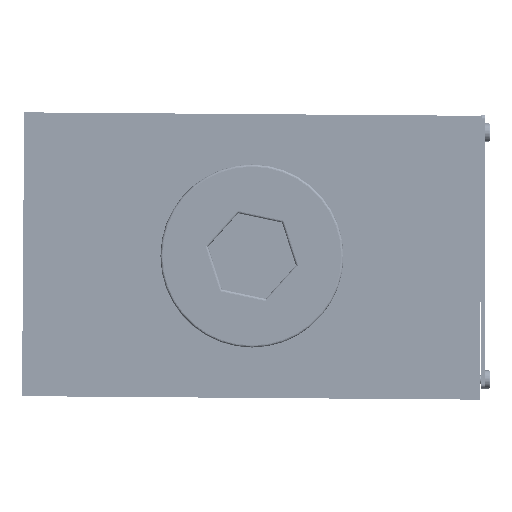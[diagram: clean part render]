
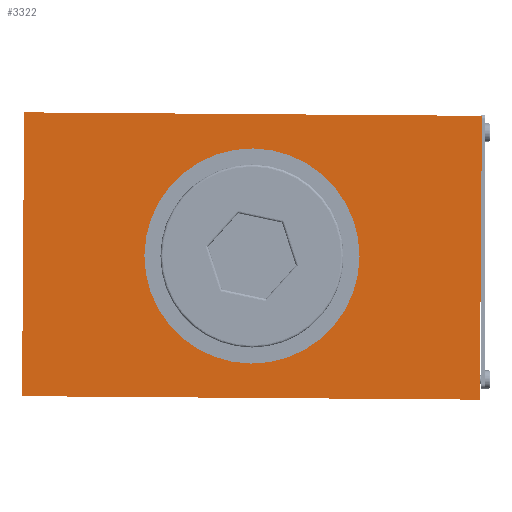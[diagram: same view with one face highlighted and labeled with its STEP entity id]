
A CAD part, front view. The second image highlights one B-rep face of the part: STEP entity #3322.
In plain terms, the highlighted planar face has unit normal (0, -1, 0).
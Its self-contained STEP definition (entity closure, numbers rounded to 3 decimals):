
#1701=LINE('',#31433,#2083);
#1705=LINE('',#39973,#2087);
#1706=LINE('',#39975,#2088);
#1707=LINE('',#39977,#2089);
#2083=VECTOR('',#15531,1.);
#2087=VECTOR('',#15645,1.);
#2088=VECTOR('',#15646,1.);
#2089=VECTOR('',#15647,1.);
#3322=ADVANCED_FACE('',(#4228,#4229),#3822,.T.);
#3822=PLANE('',#13056);
#4228=FACE_BOUND('',#5237,.T.);
#4229=FACE_BOUND('',#5238,.T.);
#5237=EDGE_LOOP('',(#8032));
#5238=EDGE_LOOP('',(#8033,#8034,#8035,#8036));
#8032=ORIENTED_EDGE('',*,*,#11226,.F.);
#8033=ORIENTED_EDGE('',*,*,#11227,.F.);
#8034=ORIENTED_EDGE('',*,*,#11072,.F.);
#8035=ORIENTED_EDGE('',*,*,#11228,.T.);
#8036=ORIENTED_EDGE('',*,*,#11229,.T.);
#9581=VERTEX_POINT('',#31428);
#9583=VERTEX_POINT('',#31432);
#9712=VERTEX_POINT('',#39972);
#9713=VERTEX_POINT('',#39974);
#9714=VERTEX_POINT('',#39976);
#11072=EDGE_CURVE('',#9583,#9581,#1701,.T.);
#11226=EDGE_CURVE('',#9712,#9712,#11949,.T.);
#11227=EDGE_CURVE('',#9581,#9713,#1705,.T.);
#11228=EDGE_CURVE('',#9583,#9714,#1706,.T.);
#11229=EDGE_CURVE('',#9714,#9713,#1707,.T.);
#11949=CIRCLE('',#13055,23.5);
#13055=AXIS2_PLACEMENT_3D('',#39971,#15643,#15644);
#13056=AXIS2_PLACEMENT_3D('',#39978,#15648,#15649);
#15531=DIRECTION('',(-0.008,0.,-1.));
#15643=DIRECTION('',(0.,-1.,0.));
#15644=DIRECTION('',(0.008,0.,1.));
#15645=DIRECTION('',(-1.,0.,0.008));
#15646=DIRECTION('',(-1.,0.,0.008));
#15647=DIRECTION('',(-0.008,0.,-1.));
#15648=DIRECTION('',(0.,-1.,0.));
#15649=DIRECTION('',(1.,0.,-0.008));
#31428=CARTESIAN_POINT('',(57.562,-126.308,-31.381));
#31432=CARTESIAN_POINT('',(58.036,-126.308,30.617));
#31433=CARTESIAN_POINT('',(58.036,-126.308,30.617));
#39971=CARTESIAN_POINT('',(7.801,-126.308,0.));
#39972=CARTESIAN_POINT('',(7.98,-126.308,23.499));
#39973=CARTESIAN_POINT('',(57.562,-126.308,-31.381));
#39974=CARTESIAN_POINT('',(-42.435,-126.308,-30.617));
#39975=CARTESIAN_POINT('',(58.036,-126.308,30.617));
#39976=CARTESIAN_POINT('',(-41.961,-126.308,31.381));
#39977=CARTESIAN_POINT('',(-41.961,-126.308,31.381));
#39978=CARTESIAN_POINT('',(58.036,-126.308,30.617));
